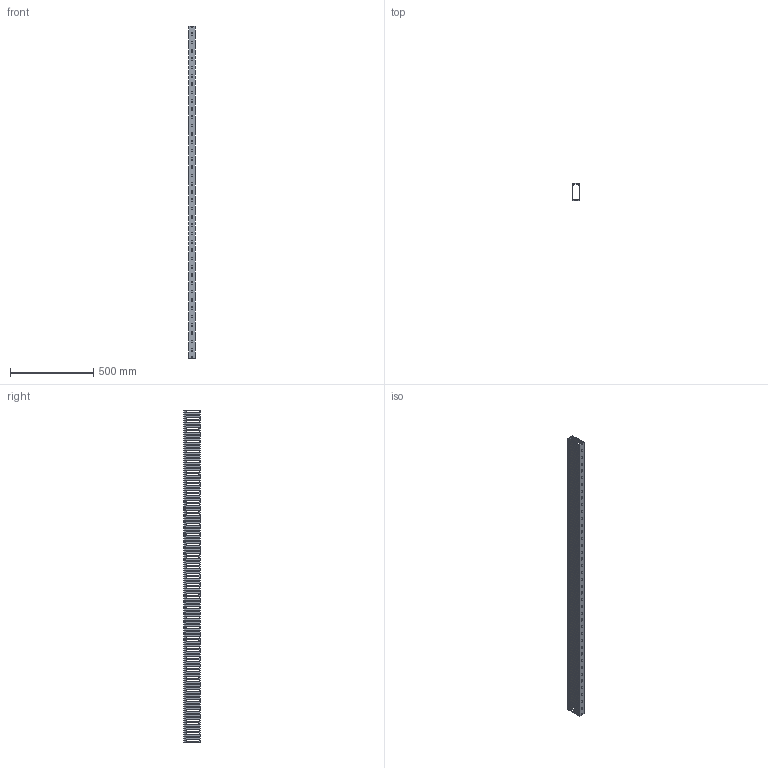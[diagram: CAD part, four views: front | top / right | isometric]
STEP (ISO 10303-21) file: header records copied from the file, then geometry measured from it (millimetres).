
FILE_DESCRIPTION (( 'STEP AP214' ), '1' );
FILE_NAME ('KD-410-20-H.STEP', '2020-02-19T01:40:08', ( '' ), ( '' ), 'SwSTEP 2.0', 'SolidWorks 2018', '' );
FILE_SCHEMA (( 'AUTOMOTIVE_DESIGN' ));
Length unit declared in the file: millimetre
Products named in the file (3): KD-410-20-H; KD-44-20-cover; KD-410-20-H-body
Assembly tree (2 placements, depth 2):
  KD-410-20-H
    KD-410-20-H-body
    KD-44-20-cover
Bounding box: 40 x 100.17 x 2000 mm (x, y, z)
Volume: 795461.6 mm3; surface area: 1027599.8 mm2
Topology: 2 solids, 2 shells, 1867 faces, 5589 edges, 3726 vertices
Faces by surface type: cylinder 957, plane 910
Entity records: 64503 total; most frequent: DIRECTION 11247, CARTESIAN_POINT 11187, ORIENTED_EDGE 11178, EDGE_CURVE 5589, AXIS2_PLACEMENT_3D 3786, VERTEX_POINT 3726, LINE 3675, VECTOR 3675
